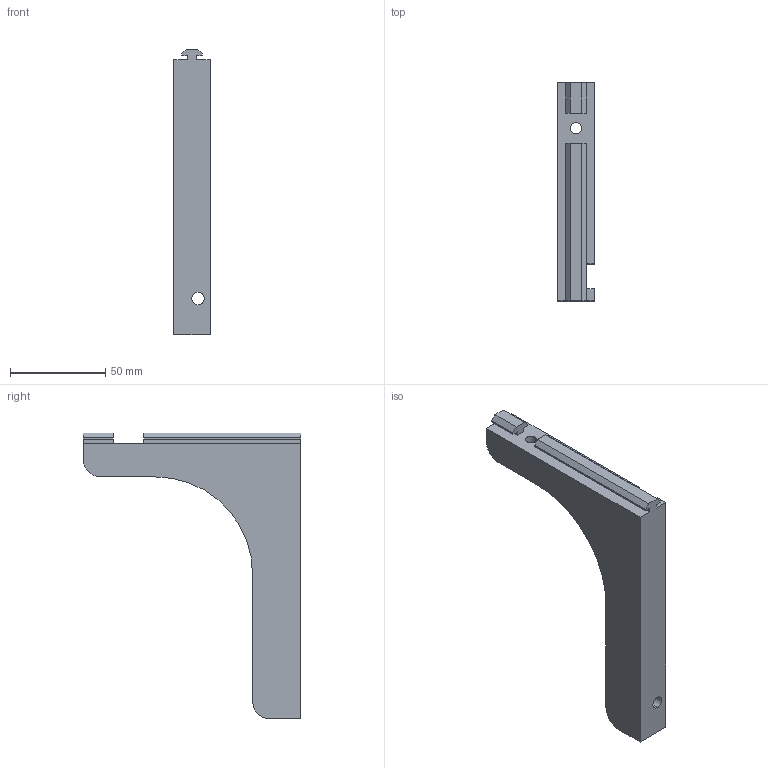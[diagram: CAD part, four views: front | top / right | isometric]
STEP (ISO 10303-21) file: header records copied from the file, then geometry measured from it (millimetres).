
FILE_DESCRIPTION (( 'STEP AP203' ), '1' );
FILE_NAME ('Phils Dust Shoe Arm - 20mm EXTRU - RIGHT.STEP', '2018-02-06T16:34:03', ( '' ), ( '' ), 'SwSTEP 2.0', 'SolidWorks 2015', '' );
FILE_SCHEMA (( 'CONFIG_CONTROL_DESIGN' ));
Length unit declared in the file: inch
Products named in the file (1): Phils Dust Shoe Arm - 20mm EXTRU - RIGHT
Bounding box: 19.05 x 114.3 x 150.01 mm (x, y, z)
Volume: 91596 mm3; surface area: 26357.3 mm2
Topology: 1 solids, 1 shells, 45 faces, 127 edges, 84 vertices
Faces by surface type: plane 34, cylinder 11
Entity records: 1539 total; most frequent: CARTESIAN_POINT 257, ORIENTED_EDGE 254, DIRECTION 242, EDGE_CURVE 127, VECTOR 104, LINE 104, VERTEX_POINT 84, AXIS2_PLACEMENT_3D 69
